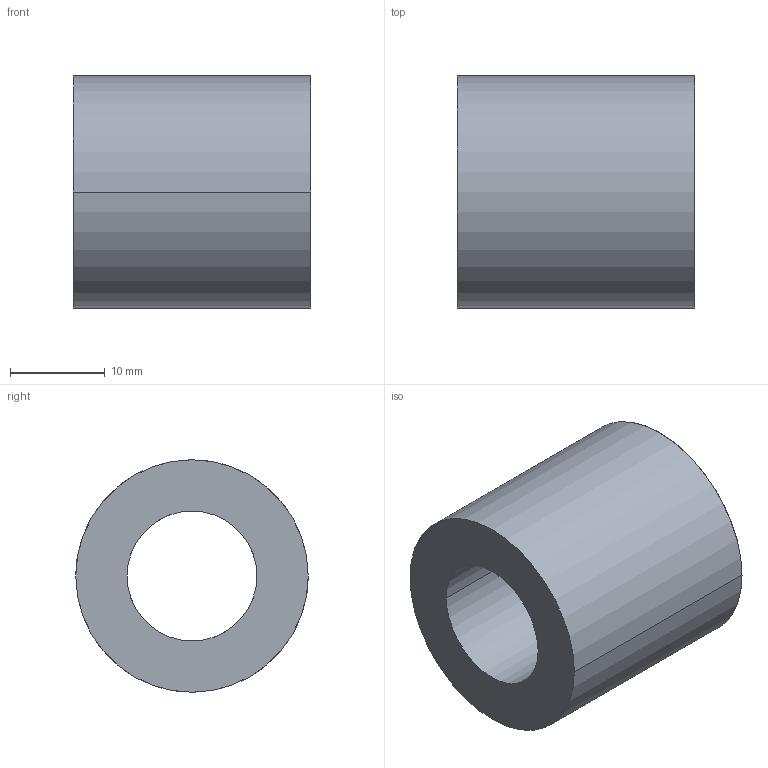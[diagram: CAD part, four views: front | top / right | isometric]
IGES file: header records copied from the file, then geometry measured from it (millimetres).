
Start section: START RECORD GO HERE.
Global section: file name: 392-B25-025.igs; native system: DASSAULT SYSTEMES CATIA V5 R20 - www.3ds.com; preprocessor: CATIA Version 5 Release 20 ; author: Utente; organization: NB04-ASUS; date: 20210813.100656; units: millimetre
Bounding box: 25 x 24.5 x 24.5 mm (x, y, z)
Surface area: 3648.3 mm2 (no closed solid volume)
Topology: 0 solids, 0 shells, 6 faces, 24 edges, 24 vertices
Faces by surface type: revolution 4, plane 2
